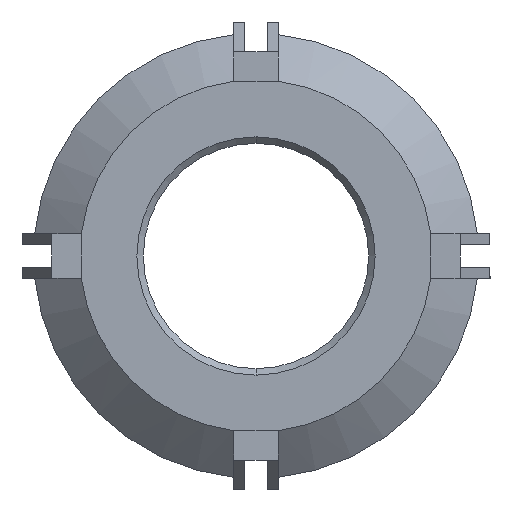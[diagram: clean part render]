
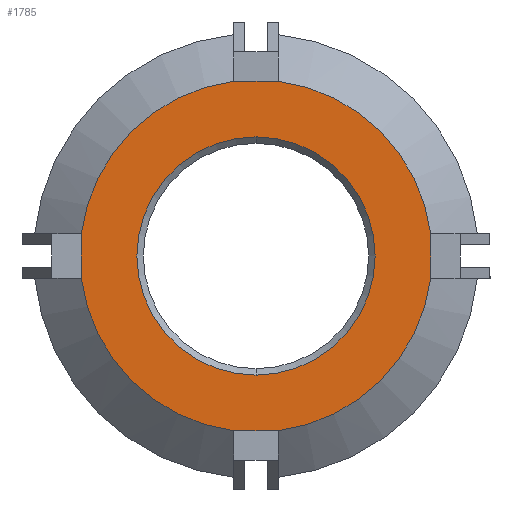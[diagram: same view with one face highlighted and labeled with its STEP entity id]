
A CAD part, front view. The second image highlights one B-rep face of the part: STEP entity #1785.
In plain terms, the highlighted planar face has unit normal (0, -1, 0).
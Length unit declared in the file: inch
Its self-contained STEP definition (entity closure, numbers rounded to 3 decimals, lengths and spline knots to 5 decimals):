
#12 = CIRCLE ( 'NONE', #2166, 0.10043 ) ;
#26 = DIRECTION ( 'NONE',  ( 0., 0., -1. ) ) ;
#51 = EDGE_CURVE ( 'NONE', #1843, #880, #1218, .T. ) ;
#123 = EDGE_CURVE ( 'NONE', #2145, #1359, #1255, .T. ) ;
#152 = LINE ( 'NONE', #173, #1701 ) ;
#173 = CARTESIAN_POINT ( 'NONE',  ( -0.01875, 0., -0.14728 ) ) ;
#193 = CARTESIAN_POINT ( 'NONE',  ( 0.01875, 0., 0.14728 ) ) ;
#277 = LINE ( 'NONE', #1832, #1704 ) ;
#314 = EDGE_LOOP ( 'NONE', ( #695, #1888, #2988, #1302, #1781, #1618, #2821, #1463 ) ) ;
#324 = DIRECTION ( 'NONE',  ( 0., -1., 0. ) ) ;
#381 = DIRECTION ( 'NONE',  ( 0., 1., 0. ) ) ;
#403 = EDGE_CURVE ( 'NONE', #1084, #2714, #702, .T. ) ;
#424 = DIRECTION ( 'NONE',  ( 0., 0., -1. ) ) ;
#457 = DIRECTION ( 'NONE',  ( 0., 0., -1. ) ) ;
#492 = CIRCLE ( 'NONE', #2004, 0.14847 ) ;
#504 = DIRECTION ( 'NONE',  ( 0., -1., 0. ) ) ;
#546 = ORIENTED_EDGE ( 'NONE', *, *, #51, .T. ) ;
#695 = ORIENTED_EDGE ( 'NONE', *, *, #1049, .T. ) ;
#699 = CARTESIAN_POINT ( 'NONE',  ( -0.01875, 0., 0.14728 ) ) ;
#702 = CIRCLE ( 'NONE', #1574, 0.14847 ) ;
#721 = LINE ( 'NONE', #1720, #2951 ) ;
#785 = DIRECTION ( 'NONE',  ( 0., 0., 1. ) ) ;
#825 = ORIENTED_EDGE ( 'NONE', *, *, #2889, .T. ) ;
#880 = VERTEX_POINT ( 'NONE', #1762 ) ;
#1049 = EDGE_CURVE ( 'NONE', #1909, #1359, #1789, .T. ) ;
#1084 = VERTEX_POINT ( 'NONE', #2079 ) ;
#1146 = VERTEX_POINT ( 'NONE', #2190 ) ;
#1158 = DIRECTION ( 'NONE',  ( -1., 0., 0. ) ) ;
#1161 = DIRECTION ( 'NONE',  ( 0., 0., -1. ) ) ;
#1218 = CIRCLE ( 'NONE', #2224, 0.10043 ) ;
#1244 = CARTESIAN_POINT ( 'NONE',  ( 0., 0., 0. ) ) ;
#1245 = CARTESIAN_POINT ( 'NONE',  ( 0., 0., 0. ) ) ;
#1255 = LINE ( 'NONE', #2283, #2687 ) ;
#1302 = ORIENTED_EDGE ( 'NONE', *, *, #2754, .F. ) ;
#1332 = DIRECTION ( 'NONE',  ( 0., 0., -1. ) ) ;
#1359 = VERTEX_POINT ( 'NONE', #2465 ) ;
#1371 = PLANE ( 'NONE',  #2163 ) ;
#1383 = CARTESIAN_POINT ( 'NONE',  ( 0., 0., 0. ) ) ;
#1384 = VERTEX_POINT ( 'NONE', #3001 ) ;
#1463 = ORIENTED_EDGE ( 'NONE', *, *, #1980, .F. ) ;
#1574 = AXIS2_PLACEMENT_3D ( 'NONE', #1675, #2956, #424 ) ;
#1618 = ORIENTED_EDGE ( 'NONE', *, *, #3205, .F. ) ;
#1671 = EDGE_CURVE ( 'NONE', #1384, #3164, #2898, .T. ) ;
#1675 = CARTESIAN_POINT ( 'NONE',  ( 0., 0., 0. ) ) ;
#1701 = VECTOR ( 'NONE', #1158, 39.37008 ) ;
#1704 = VECTOR ( 'NONE', #26, 39.37008 ) ;
#1720 = CARTESIAN_POINT ( 'NONE',  ( 0.01875, 0., 0.14728 ) ) ;
#1762 = CARTESIAN_POINT ( 'NONE',  ( 0., 0., -0.10043 ) ) ;
#1781 = ORIENTED_EDGE ( 'NONE', *, *, #1671, .T. ) ;
#1785 = ADVANCED_FACE ( 'NONE', ( #1919, #2631 ), #1371, .F. ) ;
#1789 = CIRCLE ( 'NONE', #1840, 0.14847 ) ;
#1832 = CARTESIAN_POINT ( 'NONE',  ( 0.14728, 0., -0.01875 ) ) ;
#1840 = AXIS2_PLACEMENT_3D ( 'NONE', #1383, #324, #1332 ) ;
#1843 = VERTEX_POINT ( 'NONE', #2863 ) ;
#1888 = ORIENTED_EDGE ( 'NONE', *, *, #123, .F. ) ;
#1909 = VERTEX_POINT ( 'NONE', #699 ) ;
#1913 = EDGE_CURVE ( 'NONE', #2145, #1146, #492, .T. ) ;
#1919 = FACE_BOUND ( 'NONE', #2116, .T. ) ;
#1980 = EDGE_CURVE ( 'NONE', #1909, #2714, #721, .T. ) ;
#2004 = AXIS2_PLACEMENT_3D ( 'NONE', #1245, #504, #457 ) ;
#2020 = DIRECTION ( 'NONE',  ( 0., 1., 0. ) ) ;
#2079 = CARTESIAN_POINT ( 'NONE',  ( 0.14728, 0., 0.01875 ) ) ;
#2116 = EDGE_LOOP ( 'NONE', ( #825, #546 ) ) ;
#2124 = CARTESIAN_POINT ( 'NONE',  ( 0., 0., 0. ) ) ;
#2145 = VERTEX_POINT ( 'NONE', #2570 ) ;
#2163 = AXIS2_PLACEMENT_3D ( 'NONE', #2124, #3166, #2845 ) ;
#2166 = AXIS2_PLACEMENT_3D ( 'NONE', #2419, #381, #3107 ) ;
#2190 = CARTESIAN_POINT ( 'NONE',  ( -0.01875, 0., -0.14728 ) ) ;
#2224 = AXIS2_PLACEMENT_3D ( 'NONE', #1244, #2020, #2501 ) ;
#2242 = CARTESIAN_POINT ( 'NONE',  ( 0.14728, 0., -0.01875 ) ) ;
#2283 = CARTESIAN_POINT ( 'NONE',  ( -0.14728, 0., 0.01875 ) ) ;
#2410 = CARTESIAN_POINT ( 'NONE',  ( 0., 0., 0. ) ) ;
#2419 = CARTESIAN_POINT ( 'NONE',  ( 0., 0., 0. ) ) ;
#2465 = CARTESIAN_POINT ( 'NONE',  ( -0.14728, 0., 0.01875 ) ) ;
#2501 = DIRECTION ( 'NONE',  ( 0., 0., 1. ) ) ;
#2570 = CARTESIAN_POINT ( 'NONE',  ( -0.14728, 0., -0.01875 ) ) ;
#2629 = AXIS2_PLACEMENT_3D ( 'NONE', #2410, #2935, #1161 ) ;
#2631 = FACE_OUTER_BOUND ( 'NONE', #314, .T. ) ;
#2687 = VECTOR ( 'NONE', #785, 39.37008 ) ;
#2714 = VERTEX_POINT ( 'NONE', #193 ) ;
#2716 = DIRECTION ( 'NONE',  ( 1., 0., 0. ) ) ;
#2754 = EDGE_CURVE ( 'NONE', #1384, #1146, #152, .T. ) ;
#2821 = ORIENTED_EDGE ( 'NONE', *, *, #403, .T. ) ;
#2845 = DIRECTION ( 'NONE',  ( 0., 0., 1. ) ) ;
#2863 = CARTESIAN_POINT ( 'NONE',  ( 0., 0., 0.10043 ) ) ;
#2889 = EDGE_CURVE ( 'NONE', #880, #1843, #12, .T. ) ;
#2898 = CIRCLE ( 'NONE', #2629, 0.14847 ) ;
#2935 = DIRECTION ( 'NONE',  ( 0., -1., 0. ) ) ;
#2951 = VECTOR ( 'NONE', #2716, 39.37008 ) ;
#2956 = DIRECTION ( 'NONE',  ( 0., -1., 0. ) ) ;
#2988 = ORIENTED_EDGE ( 'NONE', *, *, #1913, .T. ) ;
#3001 = CARTESIAN_POINT ( 'NONE',  ( 0.01875, 0., -0.14728 ) ) ;
#3107 = DIRECTION ( 'NONE',  ( 0., 0., 1. ) ) ;
#3164 = VERTEX_POINT ( 'NONE', #2242 ) ;
#3166 = DIRECTION ( 'NONE',  ( 0., 1., 0. ) ) ;
#3205 = EDGE_CURVE ( 'NONE', #1084, #3164, #277, .T. ) ;
